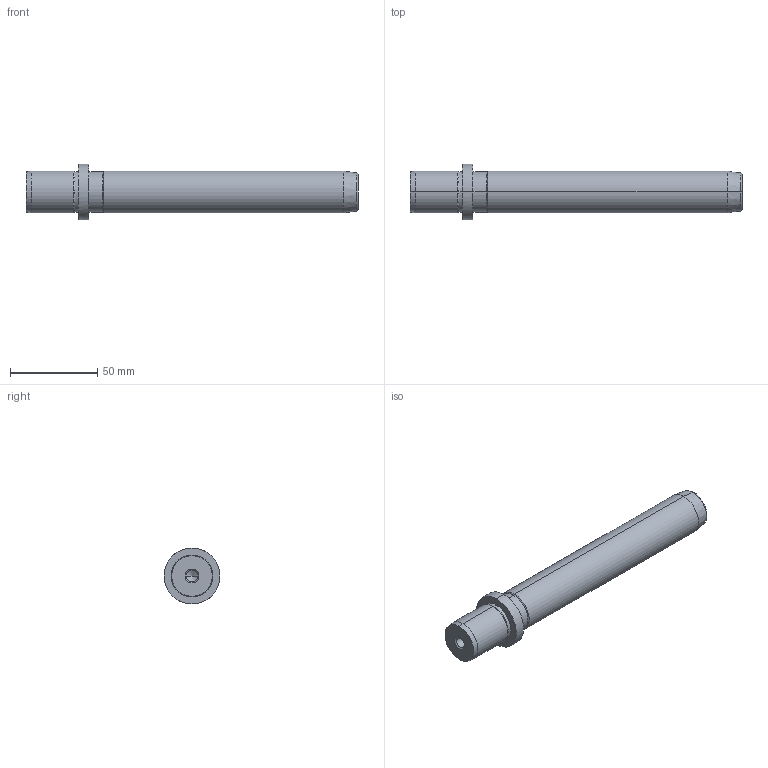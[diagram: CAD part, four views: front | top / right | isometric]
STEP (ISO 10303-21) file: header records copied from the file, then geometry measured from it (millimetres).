
FILE_DESCRIPTION(('CATIA V5 STEP Exchange'),'2;1');
FILE_NAME('C:\Users\Utente\Desktop\IO LAVORO\3D X SITO CF\X SITO\718\718-24x160.stp','2021-01-02T15:18:34+00:00',('none'),('none'),'CATIA Version 5 Release 20 GA (IN-10)','CATIA V5 STEP AP203','none');
FILE_SCHEMA(('CONFIG_CONTROL_DESIGN'));
Length unit declared in the file: millimetre
Products named in the file (1): 718-24x160
Bounding box: 190 x 32 x 32 mm (x, y, z)
Volume: 85522.9 mm3; surface area: 16982.4 mm2
Topology: 1 solids, 1 shells, 36 faces, 100 edges, 66 vertices
Faces by surface type: cone 16, cylinder 14, plane 4, torus 2
Entity records: 1291 total; most frequent: CARTESIAN_POINT 362, ORIENTED_EDGE 192, DIRECTION 157, EDGE_CURVE 96, AXIS2_PLACEMENT_3D 92, VERTEX_POINT 66, CIRCLE 55, EDGE_LOOP 40
